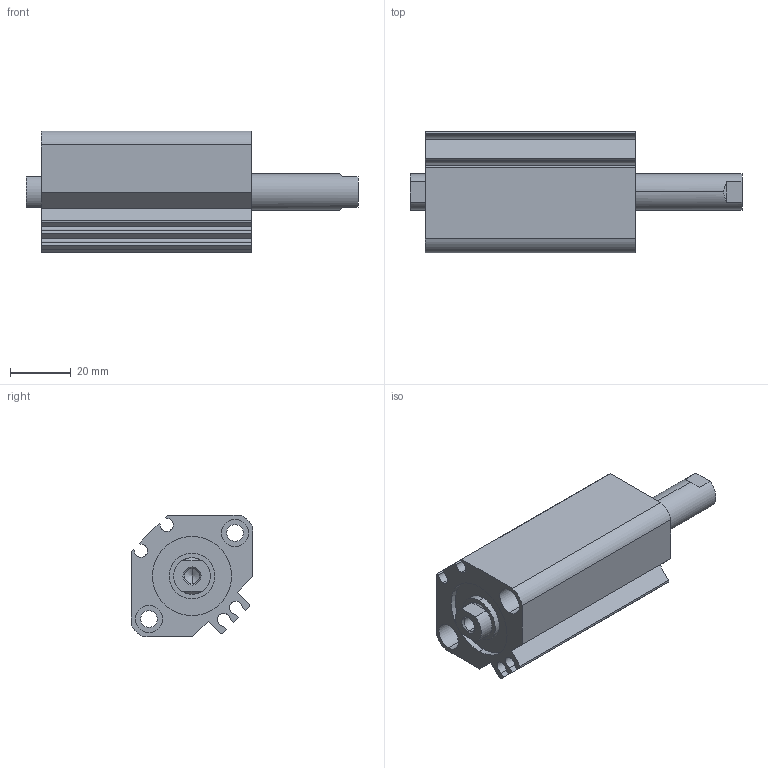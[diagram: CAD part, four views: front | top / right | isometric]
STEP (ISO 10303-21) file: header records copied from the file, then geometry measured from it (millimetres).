
FILE_DESCRIPTION (( 'STEP AP203' ), '1' );
FILE_NAME ('CCMB25-30F-P.STEP', '2020-08-05T11:10:09', ( '' ), ( '' ), 'SwSTEP 2.0', 'SolidWorks 2019', '' );
FILE_SCHEMA (( 'CONFIG_CONTROL_DESIGN' ));
Length unit declared in the file: millimetre
Products named in the file (1): CCMB25-30F-P
Bounding box: 109 x 40 x 40 mm (x, y, z)
Volume: 79193.7 mm3; surface area: 30011.4 mm2
Topology: 2 solids, 2 shells, 114 faces, 276 edges, 178 vertices
Faces by surface type: cylinder 52, plane 50, cone 12
Entity records: 3415 total; most frequent: DIRECTION 606, CARTESIAN_POINT 589, ORIENTED_EDGE 544, EDGE_CURVE 272, AXIS2_PLACEMENT_3D 227, VERTEX_POINT 178, VECTOR 152, LINE 152
